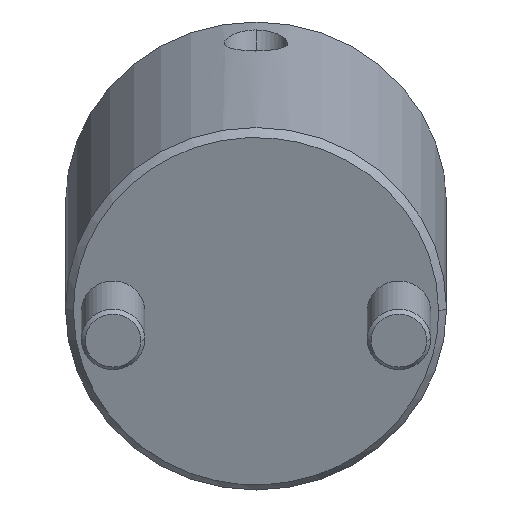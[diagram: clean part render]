
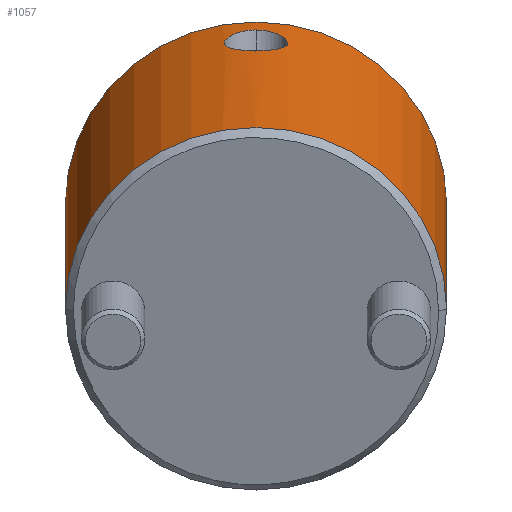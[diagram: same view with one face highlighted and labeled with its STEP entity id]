
A CAD part, front view. The second image highlights one B-rep face of the part: STEP entity #1057.
In plain terms, the highlighted cylindrical face has radius 24 mm (diameter 48 mm), a partial arc.
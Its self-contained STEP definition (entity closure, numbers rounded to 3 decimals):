
#802=CARTESIAN_POINT('Vertex',(0.,24.,1.)) ;
#805=CARTESIAN_POINT('Axis2P3D Location',(0.,0.,1.)) ;
#809=CARTESIAN_POINT('Vertex',(0.,-24.,1.)) ;
#961=CARTESIAN_POINT('Axis2P3D Location',(0.,0.,-2.25)) ;
#966=CARTESIAN_POINT('Line Origine',(0.,24.,-2.25)) ;
#970=CARTESIAN_POINT('Vertex',(0.,24.,44.)) ;
#973=CARTESIAN_POINT('Axis2P3D Location',(0.,0.,44.)) ;
#977=CARTESIAN_POINT('Vertex',(0.,-24.,44.)) ;
#980=CARTESIAN_POINT('Line Origine',(0.,-24.,-2.25)) ;
#992=CARTESIAN_POINT('Control Point',(24.,0.,40.754)) ;
#993=CARTESIAN_POINT('Control Point',(24.,0.378,40.754)) ;
#994=CARTESIAN_POINT('Control Point',(23.993,0.75,40.705)) ;
#995=CARTESIAN_POINT('Control Point',(23.978,1.114,40.608)) ;
#996=CARTESIAN_POINT('Control Point',(23.937,1.819,40.324)) ;
#997=CARTESIAN_POINT('Control Point',(23.878,2.446,39.872)) ;
#998=CARTESIAN_POINT('Control Point',(23.845,2.743,39.599)) ;
#999=CARTESIAN_POINT('Control Point',(23.795,3.142,39.132)) ;
#1000=CARTESIAN_POINT('Control Point',(23.75,3.455,38.601)) ;
#1001=CARTESIAN_POINT('Control Point',(23.736,3.55,38.417)) ;
#1002=CARTESIAN_POINT('Control Point',(23.711,3.718,38.039)) ;
#1003=CARTESIAN_POINT('Control Point',(23.691,3.842,37.645)) ;
#1004=CARTESIAN_POINT('Control Point',(23.682,3.893,37.444)) ;
#1005=CARTESIAN_POINT('Control Point',(23.669,3.971,37.04)) ;
#1006=CARTESIAN_POINT('Control Point',(23.664,4.003,36.628)) ;
#1007=CARTESIAN_POINT('Control Point',(23.663,4.007,36.425)) ;
#1008=CARTESIAN_POINT('Control Point',(23.668,3.98,35.712)) ;
#1009=CARTESIAN_POINT('Control Point',(23.696,3.811,35.025)) ;
#1010=CARTESIAN_POINT('Control Point',(23.727,3.621,34.566)) ;
#1011=CARTESIAN_POINT('Control Point',(23.795,3.162,33.804)) ;
#1012=CARTESIAN_POINT('Control Point',(23.87,2.517,33.198)) ;
#1013=CARTESIAN_POINT('Control Point',(23.903,2.199,32.968)) ;
#1014=CARTESIAN_POINT('Control Point',(23.953,1.587,32.628)) ;
#1015=CARTESIAN_POINT('Control Point',(23.985,0.917,32.43)) ;
#1016=CARTESIAN_POINT('Control Point',(23.995,0.614,32.371)) ;
#1017=CARTESIAN_POINT('Control Point',(24.,0.308,32.342)) ;
#1018=CARTESIAN_POINT('Control Point',(24.,0.,32.342)) ;
#1019=CARTESIAN_POINT('Vertex',(24.,0.,40.754)) ;
#1021=CARTESIAN_POINT('Vertex',(24.,0.,32.342)) ;
#1025=CARTESIAN_POINT('Control Point',(24.,0.,32.342)) ;
#1026=CARTESIAN_POINT('Control Point',(24.,-0.489,32.342)) ;
#1027=CARTESIAN_POINT('Control Point',(23.988,-0.97,32.415)) ;
#1028=CARTESIAN_POINT('Control Point',(23.963,-1.444,32.563)) ;
#1029=CARTESIAN_POINT('Control Point',(23.909,-2.15,32.911)) ;
#1030=CARTESIAN_POINT('Control Point',(23.844,-2.746,33.416)) ;
#1031=CARTESIAN_POINT('Control Point',(23.819,-2.952,33.626)) ;
#1032=CARTESIAN_POINT('Control Point',(23.754,-3.447,34.235)) ;
#1033=CARTESIAN_POINT('Control Point',(23.701,-3.784,34.952)) ;
#1034=CARTESIAN_POINT('Control Point',(23.677,-3.928,35.431)) ;
#1035=CARTESIAN_POINT('Control Point',(23.654,-4.06,36.347)) ;
#1036=CARTESIAN_POINT('Control Point',(23.673,-3.95,37.271)) ;
#1037=CARTESIAN_POINT('Control Point',(23.689,-3.855,37.674)) ;
#1038=CARTESIAN_POINT('Control Point',(23.723,-3.646,38.258)) ;
#1039=CARTESIAN_POINT('Control Point',(23.767,-3.341,38.798)) ;
#1040=CARTESIAN_POINT('Control Point',(23.782,-3.23,38.971)) ;
#1041=CARTESIAN_POINT('Control Point',(23.814,-2.988,39.302)) ;
#1042=CARTESIAN_POINT('Control Point',(23.847,-2.712,39.6)) ;
#1043=CARTESIAN_POINT('Control Point',(23.863,-2.568,39.737)) ;
#1044=CARTESIAN_POINT('Control Point',(23.894,-2.267,39.993)) ;
#1045=CARTESIAN_POINT('Control Point',(23.922,-1.942,40.207)) ;
#1046=CARTESIAN_POINT('Control Point',(23.935,-1.774,40.304)) ;
#1047=CARTESIAN_POINT('Control Point',(23.965,-1.34,40.52)) ;
#1048=CARTESIAN_POINT('Control Point',(23.986,-0.878,40.664)) ;
#1049=CARTESIAN_POINT('Control Point',(23.995,-0.59,40.724)) ;
#1050=CARTESIAN_POINT('Control Point',(24.,-0.297,40.754)) ;
#1051=CARTESIAN_POINT('Control Point',(24.,0.,40.754)) ;
#806=DIRECTION('Axis2P3D Direction',(0.,0.,1.)) ;
#962=DIRECTION('Axis2P3D Direction',(0.,-0.,1.)) ;
#963=DIRECTION('Axis2P3D XDirection',(0.,-1.,0.)) ;
#967=DIRECTION('Vector Direction',(0.,0.,1.)) ;
#974=DIRECTION('Axis2P3D Direction',(0.,-0.,1.)) ;
#981=DIRECTION('Vector Direction',(0.,0.,1.)) ;
#807=AXIS2_PLACEMENT_3D('Circle Axis2P3D',#805,#806,$) ;
#964=AXIS2_PLACEMENT_3D('Cylinder Axis2P3D',#961,#962,#963) ;
#975=AXIS2_PLACEMENT_3D('Circle Axis2P3D',#973,#974,$) ;
#986=ORIENTED_EDGE('',*,*,#972,.F.) ;
#987=ORIENTED_EDGE('',*,*,#979,.T.) ;
#988=ORIENTED_EDGE('',*,*,#984,.T.) ;
#989=ORIENTED_EDGE('',*,*,#811,.F.) ;
#1054=ORIENTED_EDGE('',*,*,#1023,.T.) ;
#1055=ORIENTED_EDGE('',*,*,#1052,.T.) ;
#1056=FACE_BOUND('',#1053,.T.) ;
#968=VECTOR('Line Direction',#967,1.) ;
#982=VECTOR('Line Direction',#981,1.) ;
#1057=ADVANCED_FACE('MANIFOLD_SOLID_BREP #1134',(#990,#1056),#965,.T.) ;
#991=B_SPLINE_CURVE_WITH_KNOTS('',5,(#992,#993,#994,#995,#996,#997,#998,#999,#1000,#1001,#1002,#1003,#1004,#1005,#1006,#1007,#1008,#1009,#1010,#1011,#1012,#1013,#1014,#1015,#1016,#1017,#1018),.UNSPECIFIED.,.F.,.U.,(6,3,3,3,3,3,3,3,6),(0.,2.703,5.517,6.943,8.372,9.781,13.286,16.075,18.275),.UNSPECIFIED.) ;
#1024=B_SPLINE_CURVE_WITH_KNOTS('',5,(#1025,#1026,#1027,#1028,#1029,#1030,#1031,#1032,#1033,#1034,#1035,#1036,#1037,#1038,#1039,#1040,#1041,#1042,#1043,#1044,#1045,#1046,#1047,#1048,#1049,#1050,#1051),.UNSPECIFIED.,.F.,.U.,(6,3,3,3,3,3,3,3,6),(0.,3.487,5.583,9.086,11.927,13.351,14.762,16.158,18.278),.UNSPECIFIED.) ;
#808=CIRCLE('generated circle',#807,24.) ;
#976=CIRCLE('generated circle',#975,24.) ;
#965=CYLINDRICAL_SURFACE('generated cylinder',#964,24.) ;
#811=EDGE_CURVE('',#803,#810,#808,.F.) ;
#972=EDGE_CURVE('',#971,#803,#969,.F.) ;
#979=EDGE_CURVE('',#971,#978,#976,.F.) ;
#984=EDGE_CURVE('',#978,#810,#983,.F.) ;
#1023=EDGE_CURVE('',#1020,#1022,#991,.T.) ;
#1052=EDGE_CURVE('',#1022,#1020,#1024,.T.) ;
#985=EDGE_LOOP('',(#986,#987,#988,#989)) ;
#1053=EDGE_LOOP('',(#1054,#1055)) ;
#990=FACE_OUTER_BOUND('',#985,.T.) ;
#969=LINE('Line',#966,#968) ;
#983=LINE('Line',#980,#982) ;
#803=VERTEX_POINT('',#802) ;
#810=VERTEX_POINT('',#809) ;
#971=VERTEX_POINT('',#970) ;
#978=VERTEX_POINT('',#977) ;
#1020=VERTEX_POINT('',#1019) ;
#1022=VERTEX_POINT('',#1021) ;
